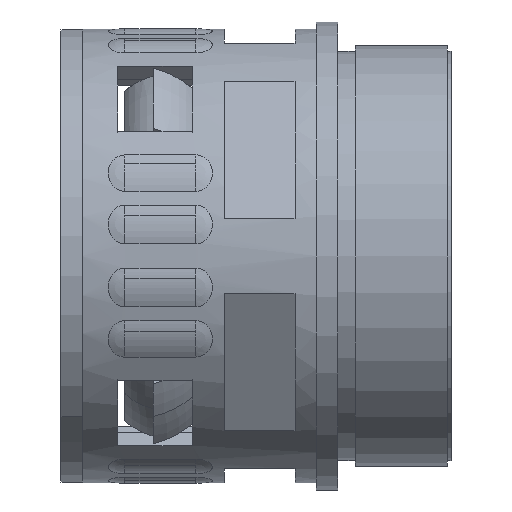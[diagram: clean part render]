
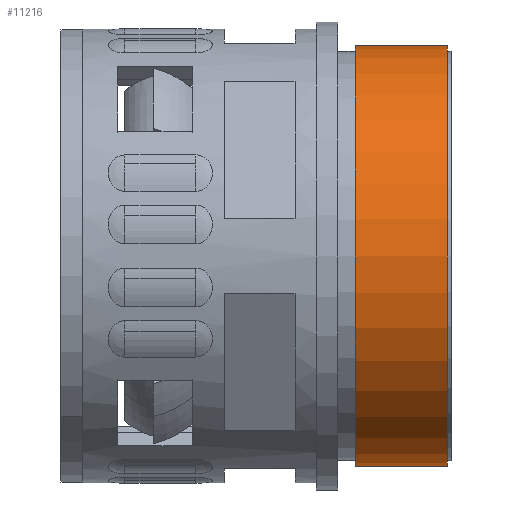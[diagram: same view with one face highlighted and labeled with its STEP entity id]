
A CAD part, left-side view. The second image highlights one B-rep face of the part: STEP entity #11216.
In plain terms, the highlighted cylindrical face has radius 29.65 mm (diameter 59.3 mm), a partial arc.
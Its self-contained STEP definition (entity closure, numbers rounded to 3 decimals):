
#154 = EDGE_CURVE ( 'NONE', #1148, #8128, #14316, .T. ) ;
#521 = DIRECTION ( 'NONE',  ( 0., -1., 0. ) ) ;
#592 = CARTESIAN_POINT ( 'NONE',  ( 8724.797, 1629.39, 29.65 ) ) ;
#817 = DIRECTION ( 'NONE',  ( 0., 0., -1. ) ) ;
#1148 = VERTEX_POINT ( 'NONE', #12506 ) ;
#1707 = ORIENTED_EDGE ( 'NONE', *, *, #9818, .F. ) ;
#2122 = EDGE_CURVE ( 'NONE', #5131, #8128, #6541, .T. ) ;
#2594 = ORIENTED_EDGE ( 'NONE', *, *, #9873, .T. ) ;
#3195 = DIRECTION ( 'NONE',  ( 0., 0., -1. ) ) ;
#3803 = CARTESIAN_POINT ( 'NONE',  ( 8724.797, 1612.89, -29.65 ) ) ;
#3931 = CARTESIAN_POINT ( 'NONE',  ( 8724.797, 1629.39, 0. ) ) ;
#3957 = VECTOR ( 'NONE', #10592, 1000. ) ;
#4945 = ORIENTED_EDGE ( 'NONE', *, *, #2122, .F. ) ;
#5131 = VERTEX_POINT ( 'NONE', #11503 ) ;
#5353 = AXIS2_PLACEMENT_3D ( 'NONE', #3931, #11832, #12982 ) ;
#6093 = CARTESIAN_POINT ( 'NONE',  ( 8724.797, 1616.39, -29.65 ) ) ;
#6541 = CIRCLE ( 'NONE', #12489, 29.65 ) ;
#7428 = DIRECTION ( 'NONE',  ( 0., -1., 0. ) ) ;
#8128 = VERTEX_POINT ( 'NONE', #6093 ) ;
#8169 = AXIS2_PLACEMENT_3D ( 'NONE', #14284, #7428, #817 ) ;
#8393 = LINE ( 'NONE', #13990, #3957 ) ;
#9818 = EDGE_CURVE ( 'NONE', #10887, #5131, #8393, .T. ) ;
#9873 = EDGE_CURVE ( 'NONE', #10887, #1148, #13360, .T. ) ;
#10592 = DIRECTION ( 'NONE',  ( 0., -1., 0. ) ) ;
#10633 = CYLINDRICAL_SURFACE ( 'NONE', #8169, 29.65 ) ;
#10887 = VERTEX_POINT ( 'NONE', #592 ) ;
#10997 = CARTESIAN_POINT ( 'NONE',  ( 8724.797, 1616.39, 0. ) ) ;
#11075 = EDGE_LOOP ( 'NONE', ( #1707, #2594, #11146, #4945 ) ) ;
#11146 = ORIENTED_EDGE ( 'NONE', *, *, #154, .T. ) ;
#11216 = ADVANCED_FACE ( 'NONE', ( #13324 ), #10633, .T. ) ;
#11454 = VECTOR ( 'NONE', #521, 1000. ) ;
#11503 = CARTESIAN_POINT ( 'NONE',  ( 8724.797, 1616.39, 29.65 ) ) ;
#11832 = DIRECTION ( 'NONE',  ( 0., -1., 0. ) ) ;
#12489 = AXIS2_PLACEMENT_3D ( 'NONE', #10997, #13349, #3195 ) ;
#12506 = CARTESIAN_POINT ( 'NONE',  ( 8724.797, 1629.39, -29.65 ) ) ;
#12982 = DIRECTION ( 'NONE',  ( 0., 0., -1. ) ) ;
#13324 = FACE_OUTER_BOUND ( 'NONE', #11075, .T. ) ;
#13349 = DIRECTION ( 'NONE',  ( 0., -1., 0. ) ) ;
#13360 = CIRCLE ( 'NONE', #5353, 29.65 ) ;
#13990 = CARTESIAN_POINT ( 'NONE',  ( 8724.797, 1612.89, 29.65 ) ) ;
#14284 = CARTESIAN_POINT ( 'NONE',  ( 8724.797, 1612.89, 0. ) ) ;
#14316 = LINE ( 'NONE', #3803, #11454 ) ;
